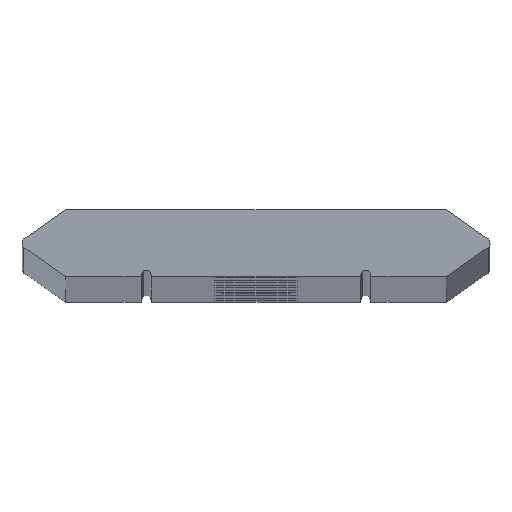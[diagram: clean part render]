
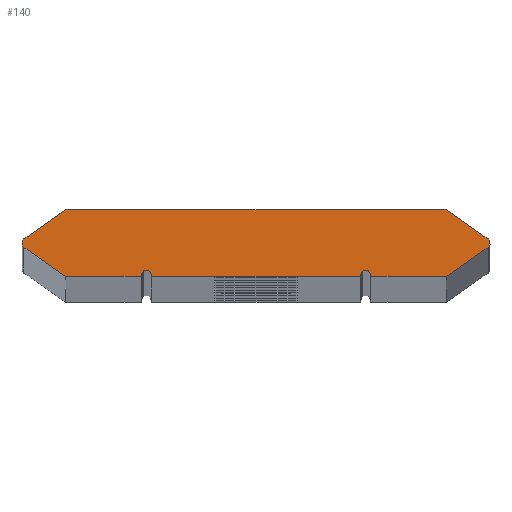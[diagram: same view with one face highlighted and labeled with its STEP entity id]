
A CAD part, top view. The second image highlights one B-rep face of the part: STEP entity #140.
In plain terms, the highlighted planar face has unit normal (0, 0, 1).
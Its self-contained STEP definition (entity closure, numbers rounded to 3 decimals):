
#140=ADVANCED_FACE('',(#352),#353,.F.);
#352=FACE_OUTER_BOUND('',#564,.T.);
#353=PLANE('',#565);
#564=EDGE_LOOP('',(#969,#970,#971,#972,#973,#974,#975,#976,#977,#978,#979,#980,#981,#982,#983,#984));
#565=AXIS2_PLACEMENT_3D('',#985,#986,#987);
#969=ORIENTED_EDGE('',*,*,#1029,.F.);
#970=ORIENTED_EDGE('',*,*,#1009,.F.);
#971=ORIENTED_EDGE('',*,*,#1027,.F.);
#972=ORIENTED_EDGE('',*,*,#1099,.F.);
#973=ORIENTED_EDGE('',*,*,#1005,.F.);
#974=ORIENTED_EDGE('',*,*,#1098,.F.);
#975=ORIENTED_EDGE('',*,*,#1096,.F.);
#976=ORIENTED_EDGE('',*,*,#1086,.F.);
#977=ORIENTED_EDGE('',*,*,#1083,.F.);
#978=ORIENTED_EDGE('',*,*,#1088,.F.);
#979=ORIENTED_EDGE('',*,*,#1090,.F.);
#980=ORIENTED_EDGE('',*,*,#1092,.F.);
#981=ORIENTED_EDGE('',*,*,#1080,.F.);
#982=ORIENTED_EDGE('',*,*,#1093,.F.);
#983=ORIENTED_EDGE('',*,*,#1095,.F.);
#984=ORIENTED_EDGE('',*,*,#1031,.F.);
#985=CARTESIAN_POINT('',(-21.922,0.,0.));
#986=DIRECTION('',(0.,0.,-1.0));
#987=DIRECTION('',(-0.574,-0.819,0.));
#1005=EDGE_CURVE('',#1134,#1135,#1136,.T.);
#1009=EDGE_CURVE('',#1142,#1143,#1144,.T.);
#1027=EDGE_CURVE('',#1176,#1142,#1177,.T.);
#1029=EDGE_CURVE('',#1143,#1179,#1180,.T.);
#1031=EDGE_CURVE('',#1179,#1182,#1183,.T.);
#1080=EDGE_CURVE('',#1279,#1280,#1281,.T.);
#1083=EDGE_CURVE('',#1284,#1285,#1286,.T.);
#1086=EDGE_CURVE('',#1285,#1289,#1290,.T.);
#1088=EDGE_CURVE('',#1292,#1284,#1293,.T.);
#1090=EDGE_CURVE('',#1295,#1292,#1296,.T.);
#1092=EDGE_CURVE('',#1280,#1295,#1298,.T.);
#1093=EDGE_CURVE('',#1299,#1279,#1300,.T.);
#1095=EDGE_CURVE('',#1182,#1299,#1302,.T.);
#1096=EDGE_CURVE('',#1289,#1303,#1304,.T.);
#1098=EDGE_CURVE('',#1303,#1134,#1306,.T.);
#1099=EDGE_CURVE('',#1135,#1176,#1307,.T.);
#1134=VERTEX_POINT('',#1342);
#1135=VERTEX_POINT('',#1343);
#1136=LINE('',#1344,#1345);
#1142=VERTEX_POINT('',#1354);
#1143=VERTEX_POINT('',#1355);
#1144=LINE('',#1356,#1357);
#1176=VERTEX_POINT('',#1402);
#1177=CIRCLE('',#1403,0.5);
#1179=VERTEX_POINT('',#1406);
#1180=LINE('',#1407,#1408);
#1182=VERTEX_POINT('',#1411);
#1183=LINE('',#1412,#1413);
#1279=VERTEX_POINT('',#1510);
#1280=VERTEX_POINT('',#1511);
#1281=LINE('',#1512,#1513);
#1284=VERTEX_POINT('',#1518);
#1285=VERTEX_POINT('',#1519);
#1286=LINE('',#1520,#1521);
#1289=VERTEX_POINT('',#1526);
#1290=LINE('',#1527,#1528);
#1292=VERTEX_POINT('',#1531);
#1293=LINE('',#1532,#1533);
#1295=VERTEX_POINT('',#1536);
#1296=CIRCLE('',#1537,0.498);
#1298=LINE('',#1540,#1541);
#1299=VERTEX_POINT('',#1542);
#1300=LINE('',#1543,#1544);
#1302=CIRCLE('',#1547,0.498);
#1303=VERTEX_POINT('',#1548);
#1304=CIRCLE('',#1549,0.5);
#1306=LINE('',#1552,#1553);
#1307=LINE('',#1554,#1555);
#1342=CARTESIAN_POINT('',(10.0,-3.21,0.));
#1343=CARTESIAN_POINT('',(-10.0,-3.21,0.));
#1344=CARTESIAN_POINT('',(10.0,-3.21,0.));
#1345=VECTOR('',#1607,1.0);
#1354=CARTESIAN_POINT('',(-11.0,-3.01,0.));
#1355=CARTESIAN_POINT('',(-11.0,-3.21,0.));
#1356=CARTESIAN_POINT('',(-11.0,-3.01,0.));
#1357=VECTOR('',#1611,1.0);
#1402=CARTESIAN_POINT('',(-10.0,-3.01,0.));
#1403=AXIS2_PLACEMENT_3D('',#1637,#1638,#1639);
#1406=CARTESIAN_POINT('',(-18.206,-3.21,0.));
#1407=CARTESIAN_POINT('',(-11.0,-3.21,0.));
#1408=VECTOR('',#1641,1.0);
#1411=CARTESIAN_POINT('',(-22.208,-0.408,0.));
#1412=CARTESIAN_POINT('',(-18.206,-3.21,0.));
#1413=VECTOR('',#1643,1.0);
#1510=CARTESIAN_POINT('',(-18.206,3.21,0.));
#1511=CARTESIAN_POINT('',(18.206,3.21,0.));
#1512=CARTESIAN_POINT('',(-18.206,3.21,0.));
#1513=VECTOR('',#1786,1.0);
#1518=CARTESIAN_POINT('',(18.206,-3.21,0.));
#1519=CARTESIAN_POINT('',(11.0,-3.21,0.));
#1520=CARTESIAN_POINT('',(18.206,-3.21,0.));
#1521=VECTOR('',#1789,1.0);
#1526=CARTESIAN_POINT('',(11.0,-3.01,0.));
#1527=CARTESIAN_POINT('',(11.0,-3.21,0.));
#1528=VECTOR('',#1792,1.0);
#1531=CARTESIAN_POINT('',(22.208,-0.408,0.));
#1532=CARTESIAN_POINT('',(22.208,-0.408,0.));
#1533=VECTOR('',#1794,1.0);
#1536=CARTESIAN_POINT('',(22.208,0.408,0.));
#1537=AXIS2_PLACEMENT_3D('',#1796,#1797,#1798);
#1540=CARTESIAN_POINT('',(18.206,3.21,0.));
#1541=VECTOR('',#1800,1.0);
#1542=CARTESIAN_POINT('',(-22.208,0.408,0.));
#1543=CARTESIAN_POINT('',(-22.208,0.408,0.));
#1544=VECTOR('',#1801,1.0);
#1547=AXIS2_PLACEMENT_3D('',#1803,#1804,#1805);
#1548=CARTESIAN_POINT('',(10.0,-3.01,0.));
#1549=AXIS2_PLACEMENT_3D('',#1806,#1807,#1808);
#1552=CARTESIAN_POINT('',(10.0,-3.01,0.));
#1553=VECTOR('',#1810,1.0);
#1554=CARTESIAN_POINT('',(-10.0,-3.21,0.));
#1555=VECTOR('',#1811,1.0);
#1607=DIRECTION('',(-1.0,0.,0.));
#1611=DIRECTION('',(0.,-1.0,0.));
#1637=CARTESIAN_POINT('',(-10.5,-3.01,0.));
#1638=DIRECTION('',(0.,0.,1.0));
#1639=DIRECTION('',(1.0,0.,0.));
#1641=DIRECTION('',(-1.0,0.,0.));
#1643=DIRECTION('',(-0.819,0.574,0.));
#1786=DIRECTION('',(1.0,0.,0.));
#1789=DIRECTION('',(-1.0,0.,0.));
#1792=DIRECTION('',(0.,1.0,0.));
#1794=DIRECTION('',(-0.819,-0.574,0.));
#1796=CARTESIAN_POINT('',(21.922,0.,0.));
#1797=DIRECTION('',(0.,0.,-1.0));
#1798=DIRECTION('',(1.0,0.,0.));
#1800=DIRECTION('',(0.819,-0.574,0.));
#1801=DIRECTION('',(0.819,0.574,0.));
#1803=CARTESIAN_POINT('',(-21.922,0.,0.));
#1804=DIRECTION('',(0.,0.,-1.0));
#1805=DIRECTION('',(1.0,0.,0.));
#1806=CARTESIAN_POINT('',(10.5,-3.01,0.));
#1807=DIRECTION('',(0.,0.,1.0));
#1808=DIRECTION('',(1.0,0.,0.));
#1810=DIRECTION('',(0.,-1.0,0.));
#1811=DIRECTION('',(0.,1.0,0.));
